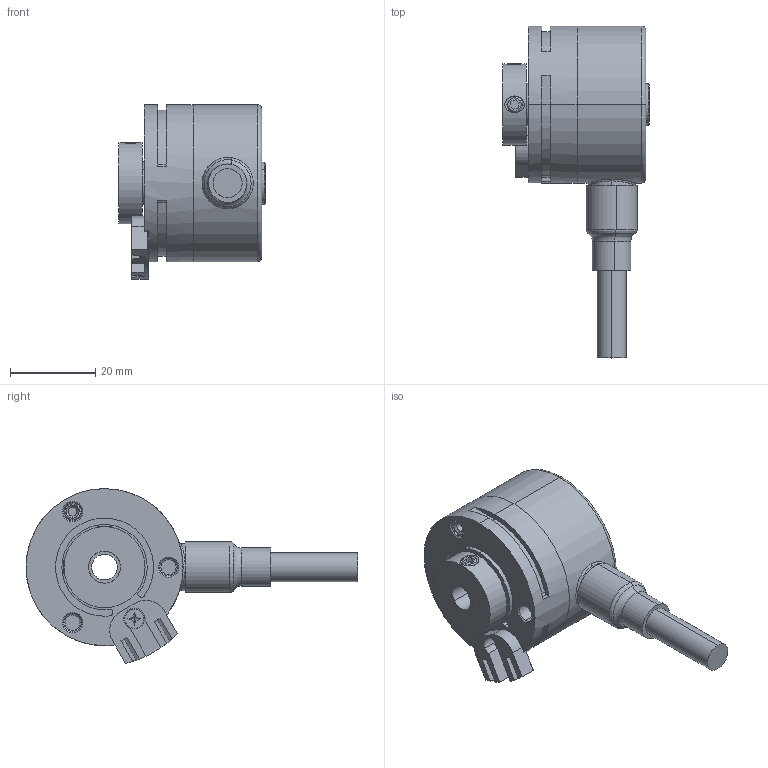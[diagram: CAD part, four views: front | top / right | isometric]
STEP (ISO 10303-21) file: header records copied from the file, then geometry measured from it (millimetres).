
FILE_DESCRIPTION (( 'STEP AP214' ), '1' );
FILE_NAME ('3720.13X1.XXXX.STEP', '2008-11-27T10:40:25', ( 'admin' ), ( 'Fritz Kübler GmbH' ), 'SwSTEP 2.0', 'SolidWorks 2008', '' );
FILE_SCHEMA (( 'AUTOMOTIVE_DESIGN' ));
Length unit declared in the file: millimetre
Products named in the file (1): 3720.13X1.XXXX
Bounding box: 34.3 x 77.8 x 40.95 mm (x, y, z)
Volume: 16605.2 mm3; surface area: 19235.4 mm2
Topology: 12 solids, 12 shells, 761 faces, 1870 edges, 1155 vertices
Faces by surface type: cylinder 279, plane 232, torus 90, bspline 77, cone 58, sphere 25
Entity records: 33684 total; most frequent: CARTESIAN_POINT 7766, DIRECTION 3734, ORIENTED_EDGE 3694, EDGE_CURVE 1847, AXIS2_PLACEMENT_3D 1537, VERTEX_POINT 1145, CIRCLE 852, EDGE_LOOP 818
